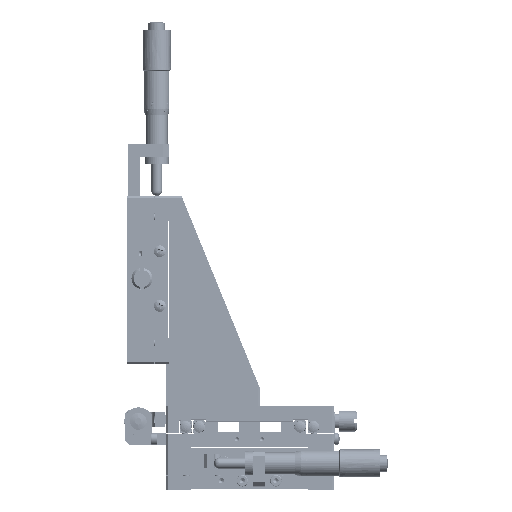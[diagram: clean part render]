
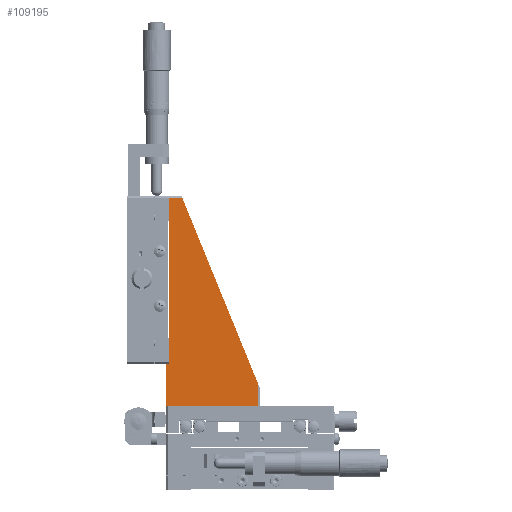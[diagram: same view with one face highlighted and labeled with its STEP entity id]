
A CAD part, top view. The second image highlights one B-rep face of the part: STEP entity #109195.
In plain terms, the highlighted planar face has unit normal (0, 0, 1).
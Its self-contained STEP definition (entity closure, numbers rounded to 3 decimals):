
#5572 = VECTOR ( 'NONE', #34861, 1000. ) ;
#7333 = DIRECTION ( 'NONE',  ( 0., 1., 0. ) ) ;
#7656 = ORIENTED_EDGE ( 'NONE', *, *, #127605, .T. ) ;
#7810 = VERTEX_POINT ( 'NONE', #217801 ) ;
#9908 = CARTESIAN_POINT ( 'NONE',  ( 8.25, 20., 40. ) ) ;
#12563 = LINE ( 'NONE', #160551, #186418 ) ;
#13359 = EDGE_CURVE ( 'NONE', #89046, #93769, #47301, .T. ) ;
#19468 = CARTESIAN_POINT ( 'NONE',  ( 8.25, 99., 40. ) ) ;
#23059 = DIRECTION ( 'NONE',  ( 0., 0., -1. ) ) ;
#23925 = CARTESIAN_POINT ( 'NONE',  ( 6.75, 0., 40. ) ) ;
#28539 = VECTOR ( 'NONE', #256806, 1000. ) ;
#34861 = DIRECTION ( 'NONE',  ( -1., 0., 0. ) ) ;
#44147 = ORIENTED_EDGE ( 'NONE', *, *, #13359, .F. ) ;
#47301 = LINE ( 'NONE', #128720, #28539 ) ;
#57472 = EDGE_CURVE ( 'NONE', #308388, #239052, #236125, .T. ) ;
#59883 = CARTESIAN_POINT ( 'NONE',  ( 8.25, 99., 40. ) ) ;
#69011 = CARTESIAN_POINT ( 'NONE',  ( 6.75, 20., 40. ) ) ;
#72777 = VECTOR ( 'NONE', #188611, 1000. ) ;
#88007 = LINE ( 'NONE', #9908, #5572 ) ;
#89046 = VERTEX_POINT ( 'NONE', #167492 ) ;
#89620 = DIRECTION ( 'NONE',  ( 0., 1., 0. ) ) ;
#93769 = VERTEX_POINT ( 'NONE', #275157 ) ;
#94230 = VECTOR ( 'NONE', #7333, 1000. ) ;
#97864 = DIRECTION ( 'NONE',  ( -1., 0., 0. ) ) ;
#109195 = ADVANCED_FACE ( 'NONE', ( #121184 ), #124474, .F. ) ;
#113952 = DIRECTION ( 'NONE',  ( 1., 0., 0. ) ) ;
#121184 = FACE_OUTER_BOUND ( 'NONE', #167250, .T. ) ;
#124474 = PLANE ( 'NONE',  #179057 ) ;
#127605 = EDGE_CURVE ( 'NONE', #308388, #271024, #88007, .T. ) ;
#128720 = CARTESIAN_POINT ( 'NONE',  ( 51.75, 8., 40. ) ) ;
#129658 = EDGE_CURVE ( 'NONE', #170531, #7810, #12563, .T. ) ;
#133677 = LINE ( 'NONE', #233549, #94230 ) ;
#141378 = ORIENTED_EDGE ( 'NONE', *, *, #129658, .T. ) ;
#160551 = CARTESIAN_POINT ( 'NONE',  ( 6.75, 0., 40. ) ) ;
#166956 = ORIENTED_EDGE ( 'NONE', *, *, #291013, .F. ) ;
#167250 = EDGE_LOOP ( 'NONE', ( #44147, #312335, #223834, #7656, #166956, #141378, #326328 ) ) ;
#167492 = CARTESIAN_POINT ( 'NONE',  ( 14.658, 99., 40. ) ) ;
#170531 = VERTEX_POINT ( 'NONE', #23925 ) ;
#179057 = AXIS2_PLACEMENT_3D ( 'NONE', #325712, #23059, #97864 ) ;
#186418 = VECTOR ( 'NONE', #113952, 1000. ) ;
#188611 = DIRECTION ( 'NONE',  ( 0., 1., 0. ) ) ;
#190222 = LINE ( 'NONE', #268422, #72777 ) ;
#202498 = EDGE_CURVE ( 'NONE', #89046, #239052, #315900, .T. ) ;
#204550 = VECTOR ( 'NONE', #89620, 1000. ) ;
#216018 = CARTESIAN_POINT ( 'NONE',  ( 8.25, 0., 40. ) ) ;
#217801 = CARTESIAN_POINT ( 'NONE',  ( 50.75, 0., 40. ) ) ;
#223834 = ORIENTED_EDGE ( 'NONE', *, *, #57472, .F. ) ;
#233549 = CARTESIAN_POINT ( 'NONE',  ( 50.75, 0., 40. ) ) ;
#236125 = LINE ( 'NONE', #216018, #204550 ) ;
#239052 = VERTEX_POINT ( 'NONE', #19468 ) ;
#242769 = DIRECTION ( 'NONE',  ( -1., 0., 0. ) ) ;
#256806 = DIRECTION ( 'NONE',  ( 0.377, -0.926, 0. ) ) ;
#268422 = CARTESIAN_POINT ( 'NONE',  ( 6.75, 0., 40. ) ) ;
#271024 = VERTEX_POINT ( 'NONE', #69011 ) ;
#275157 = CARTESIAN_POINT ( 'NONE',  ( 50.75, 10.453, 40. ) ) ;
#287319 = CARTESIAN_POINT ( 'NONE',  ( 8.25, 20., 40. ) ) ;
#291013 = EDGE_CURVE ( 'NONE', #170531, #271024, #190222, .T. ) ;
#304444 = VECTOR ( 'NONE', #242769, 1000. ) ;
#305178 = EDGE_CURVE ( 'NONE', #7810, #93769, #133677, .T. ) ;
#308388 = VERTEX_POINT ( 'NONE', #287319 ) ;
#312335 = ORIENTED_EDGE ( 'NONE', *, *, #202498, .T. ) ;
#315900 = LINE ( 'NONE', #59883, #304444 ) ;
#325712 = CARTESIAN_POINT ( 'NONE',  ( 6.75, 0., 40. ) ) ;
#326328 = ORIENTED_EDGE ( 'NONE', *, *, #305178, .T. ) ;
